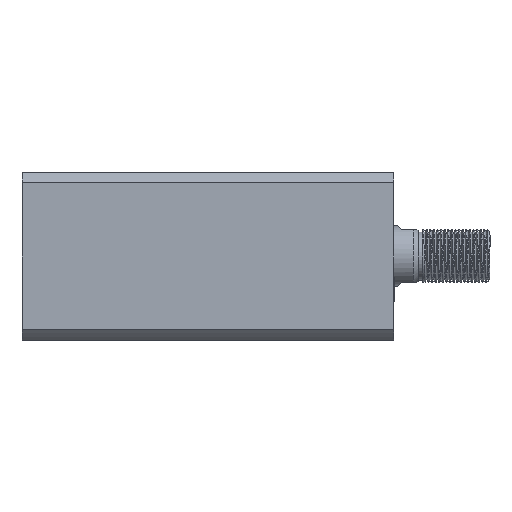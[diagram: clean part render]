
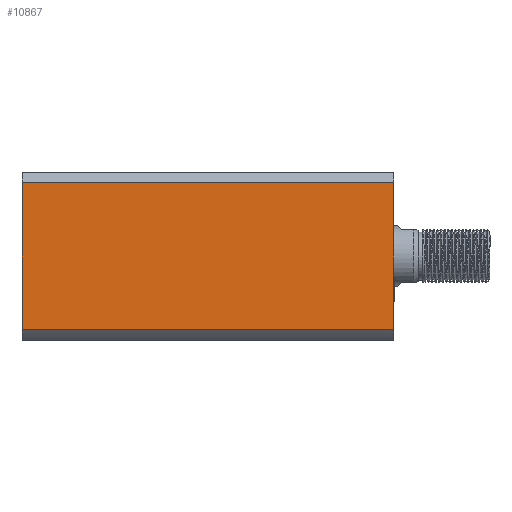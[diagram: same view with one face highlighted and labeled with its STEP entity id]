
A CAD part, left-side view. The second image highlights one B-rep face of the part: STEP entity #10867.
In plain terms, the highlighted planar face has unit normal (-1, 0, 0) as drawn and (0, 1, 0) by its records, which use the part's own axes.
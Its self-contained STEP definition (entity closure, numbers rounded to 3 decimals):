
#224 = DIRECTION ( 'NONE',  ( 0., 0., -1. ) ) ;
#924 = LINE ( 'NONE', #6804, #8946 ) ;
#1249 = LINE ( 'NONE', #9548, #4001 ) ;
#2026 = EDGE_CURVE ( 'NONE', #6926, #6028, #6133, .T. ) ;
#2223 = DIRECTION ( 'NONE',  ( 0., 0., -1. ) ) ;
#2698 = DIRECTION ( 'NONE',  ( -1., 0., 0. ) ) ;
#4001 = VECTOR ( 'NONE', #2223, 1000. ) ;
#4782 = CARTESIAN_POINT ( 'NONE',  ( -35., 35., 0. ) ) ;
#5113 = EDGE_CURVE ( 'NONE', #7707, #5831, #13072, .T. ) ;
#5431 = PLANE ( 'NONE',  #8249 ) ;
#5785 = CARTESIAN_POINT ( 'NONE',  ( 30.615, 35., 0. ) ) ;
#5831 = VERTEX_POINT ( 'NONE', #8096 ) ;
#6028 = VERTEX_POINT ( 'NONE', #8434 ) ;
#6133 = LINE ( 'NONE', #13380, #11387 ) ;
#6201 = ORIENTED_EDGE ( 'NONE', *, *, #2026, .F. ) ;
#6487 = ORIENTED_EDGE ( 'NONE', *, *, #6752, .F. ) ;
#6495 = DIRECTION ( 'NONE',  ( 0., -1., 0. ) ) ;
#6752 = EDGE_CURVE ( 'NONE', #6028, #5831, #1249, .T. ) ;
#6804 = CARTESIAN_POINT ( 'NONE',  ( 30.615, 35., 300. ) ) ;
#6831 = EDGE_LOOP ( 'NONE', ( #6487, #6201, #7022, #11083 ) ) ;
#6926 = VERTEX_POINT ( 'NONE', #10782 ) ;
#7022 = ORIENTED_EDGE ( 'NONE', *, *, #11265, .F. ) ;
#7707 = VERTEX_POINT ( 'NONE', #5785 ) ;
#7826 = VECTOR ( 'NONE', #2698, 1000. ) ;
#8096 = CARTESIAN_POINT ( 'NONE',  ( -30.615, 35., 0. ) ) ;
#8249 = AXIS2_PLACEMENT_3D ( 'NONE', #12782, #6495, #224 ) ;
#8434 = CARTESIAN_POINT ( 'NONE',  ( -30.615, 35., 155. ) ) ;
#8946 = VECTOR ( 'NONE', #13017, 1000. ) ;
#9208 = DIRECTION ( 'NONE',  ( -1., 0., 0. ) ) ;
#9548 = CARTESIAN_POINT ( 'NONE',  ( -30.615, 35., 300. ) ) ;
#10782 = CARTESIAN_POINT ( 'NONE',  ( 30.615, 35., 155. ) ) ;
#10867 = ADVANCED_FACE ( 'NONE', ( #10907 ), #5431, .F. ) ;
#10907 = FACE_OUTER_BOUND ( 'NONE', #6831, .T. ) ;
#11083 = ORIENTED_EDGE ( 'NONE', *, *, #5113, .T. ) ;
#11265 = EDGE_CURVE ( 'NONE', #7707, #6926, #924, .T. ) ;
#11387 = VECTOR ( 'NONE', #9208, 1000. ) ;
#12782 = CARTESIAN_POINT ( 'NONE',  ( -35., 35., 155. ) ) ;
#13017 = DIRECTION ( 'NONE',  ( 0., 0., 1. ) ) ;
#13072 = LINE ( 'NONE', #4782, #7826 ) ;
#13380 = CARTESIAN_POINT ( 'NONE',  ( -35., 35., 155. ) ) ;
